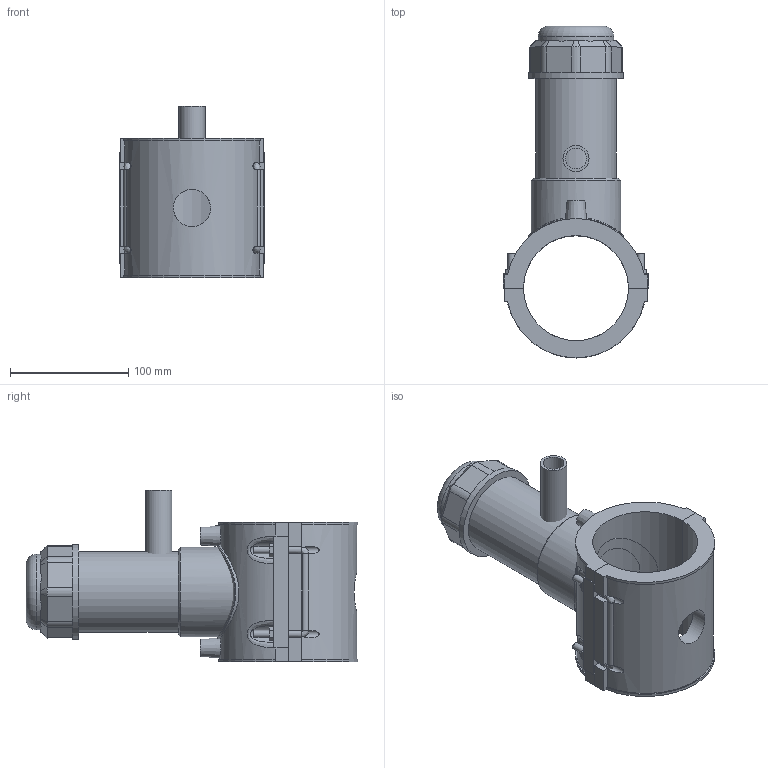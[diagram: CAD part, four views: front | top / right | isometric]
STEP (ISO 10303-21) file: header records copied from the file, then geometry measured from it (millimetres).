
FILE_DESCRIPTION(/* description */ ('PLASSON TAPPING SADDLE 3''''IPS x 3/4''''CTS'),/* implementation_level */ '2;1');
FILE_NAME(/* name */ 'C:\Dropbox\KIMPROJECTS-Inventor 2019\99-16-3568-Processing Inch\ASTM ElectroFusion 2021\5963BBP_5963BUP\5963BUP3030007.ipt.stp',/* time_stamp */ '2021-08-30T09:57:41+03:00',/* author */ ('KIM'),/* organization */ (''),/* preprocessor_version */ 'ST-DEVELOPER v17.2',/* originating_system */ 'Autodesk Inventor 2019',/* authorisation */ '');
FILE_SCHEMA (('AUTOMOTIVE_DESIGN { 1 0 10303 214 3 1 1 }'));
Length unit declared in the file: inch
Products named in the file (1): 5963BUP3030007
Bounding box: 122.9 x 280.2 x 145.16 mm (x, y, z)
Volume: 932263.2 mm3; surface area: 189733.3 mm2
Topology: 3 solids, 3 shells, 204 faces, 543 edges, 356 vertices
Faces by surface type: plane 125, cylinder 53, cone 15, bspline 10, torus 1
Full cylindrical faces by diameter (mm): 4 x2, 6 x8, 10 x2, 17.68 x1, 22.1 x1, 31.36 x1, 55.881 x1, 63.864 x1, 67.856 x1, 75.839 x1, 79.83 x1
Entity records: 7875 total; most frequent: CARTESIAN_POINT 2739, ORIENTED_EDGE 1086, DIRECTION 1022, EDGE_CURVE 543, VERTEX_POINT 356, AXIS2_PLACEMENT_3D 351, LINE 320, VECTOR 320
